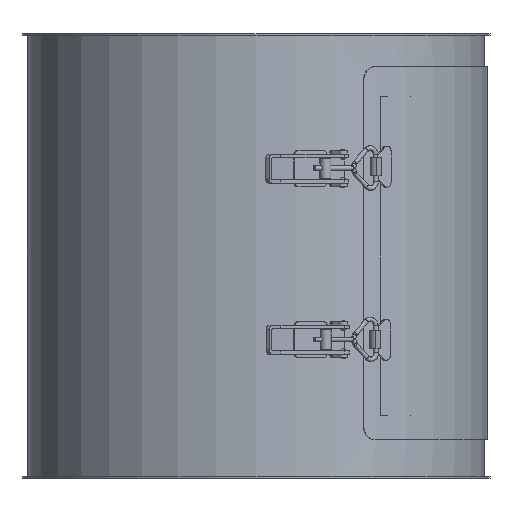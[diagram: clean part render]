
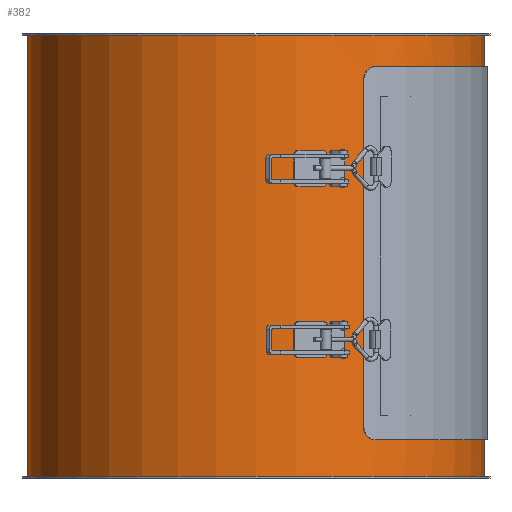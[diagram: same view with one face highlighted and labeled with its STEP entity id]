
A CAD part, left-side view. The second image highlights one B-rep face of the part: STEP entity #382.
In plain terms, the highlighted cylindrical face has radius 251 mm (diameter 502 mm), a full revolution.
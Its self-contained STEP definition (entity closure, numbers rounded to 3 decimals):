
#123=CARTESIAN_POINT('',(-210.5,-136.714,69.));
#124=VERTEX_POINT('',#123);
#131=CARTESIAN_POINT('',(210.5,-136.714,69.));
#132=VERTEX_POINT('',#131);
#133=CARTESIAN_POINT('',(0.0,0.0,69.));
#134=DIRECTION('',(0.0,0.0,-1.0));
#135=DIRECTION('',(-1.0,0.0,0.0));
#136=AXIS2_PLACEMENT_3D('',#133,#134,#135);
#137=CIRCLE('',#136,251.0);
#138=EDGE_CURVE('',#132,#124,#137,.T.);
#163=CARTESIAN_POINT('',(210.5,-136.714,419.));
#164=VERTEX_POINT('',#163);
#165=CARTESIAN_POINT('',(210.5,-136.714,419.));
#166=DIRECTION('',(0.0,0.0,-1.0));
#167=VECTOR('',#166,350.);
#168=LINE('',#165,#167);
#169=EDGE_CURVE('',#164,#132,#168,.T.);
#195=CARTESIAN_POINT('',(-210.5,-136.714,419.));
#196=VERTEX_POINT('',#195);
#197=CARTESIAN_POINT('',(0.0,0.0,419.));
#198=DIRECTION('',(0.0,0.0,1.0));
#199=DIRECTION('',(-1.0,0.0,0.0));
#200=AXIS2_PLACEMENT_3D('',#197,#198,#199);
#201=CIRCLE('',#200,251.0);
#202=EDGE_CURVE('',#196,#164,#201,.T.);
#225=CARTESIAN_POINT('',(-210.5,-136.714,69.));
#226=DIRECTION('',(0.0,0.0,1.0));
#227=VECTOR('',#226,350.0);
#228=LINE('',#225,#227);
#229=EDGE_CURVE('',#124,#196,#228,.T.);
#271=CARTESIAN_POINT('',(-251.0,0.,2.0));
#272=VERTEX_POINT('',#271);
#273=CARTESIAN_POINT('',(0.0,0.0,2.0));
#274=DIRECTION('',(0.0,0.0,1.0));
#275=DIRECTION('',(-1.0,0.0,0.0));
#276=AXIS2_PLACEMENT_3D('',#273,#274,#275);
#277=CIRCLE('',#276,251.0);
#278=EDGE_CURVE('',#272,#272,#277,.T.);
#319=CARTESIAN_POINT('',(251.0,0.,486.0));
#320=VERTEX_POINT('',#319);
#321=CARTESIAN_POINT('',(0.0,0.0,486.0));
#322=DIRECTION('',(0.0,0.0,-1.0));
#323=DIRECTION('',(-1.0,0.0,0.0));
#324=AXIS2_PLACEMENT_3D('',#321,#322,#323);
#325=CIRCLE('',#324,251.0);
#326=EDGE_CURVE('',#320,#320,#325,.T.);
#365=CARTESIAN_POINT('',(0.0,0.0,0.0));
#366=DIRECTION('',(0.0,0.0,1.0));
#367=DIRECTION('',(-1.0,0.0,0.0));
#368=AXIS2_PLACEMENT_3D('',#365,#366,#367);
#369=CYLINDRICAL_SURFACE('',#368,251.0);
#370=ORIENTED_EDGE('',*,*,#278,.T.);
#371=EDGE_LOOP('',(#370));
#372=FACE_OUTER_BOUND('',#371,.T.);
#373=ORIENTED_EDGE('',*,*,#202,.T.);
#374=ORIENTED_EDGE('',*,*,#169,.T.);
#375=ORIENTED_EDGE('',*,*,#138,.T.);
#376=ORIENTED_EDGE('',*,*,#229,.T.);
#377=EDGE_LOOP('',(#373,#374,#375,#376));
#378=FACE_BOUND('',#377,.T.);
#379=ORIENTED_EDGE('',*,*,#326,.T.);
#380=EDGE_LOOP('',(#379));
#381=FACE_BOUND('',#380,.T.);
#382=ADVANCED_FACE('',(#372,#378,#381),#369,.T.);
